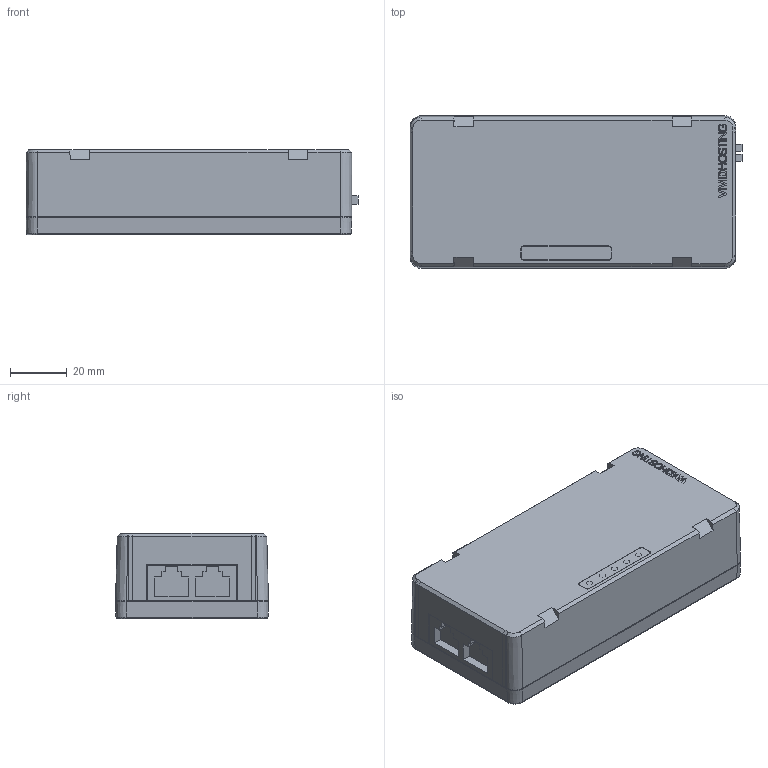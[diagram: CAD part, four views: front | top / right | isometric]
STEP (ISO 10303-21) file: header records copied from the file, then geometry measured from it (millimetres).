
FILE_DESCRIPTION (( 'STEP AP214' ), '1' );
FILE_NAME ('VH-109 Radio.step', '2025-12-23T15:58:14', ( '' ), ( '' ), 'SwSTEP 2.0', 'SolidWorks 2026', '' );
FILE_SCHEMA (( 'AUTOMOTIVE_DESIGN' ));
Length unit declared in the file: millimetre
Products named in the file (1): VH-109 Radio
Bounding box: 117.2 x 53.99 x 30.1 mm (x, y, z)
Volume: 49769.6 mm3; surface area: 51099.2 mm2
Topology: 11 solids, 11 shells, 1073 faces, 2963 edges, 1925 vertices
Faces by surface type: plane 644, cylinder 151, bspline 104, cone 94, torus 64, sphere 16
Entity records: 44241 total; most frequent: CARTESIAN_POINT 17994, ORIENTED_EDGE 5862, DIRECTION 4738, EDGE_CURVE 2931, VERTEX_POINT 1925, VECTOR 1836, LINE 1836, AXIS2_PLACEMENT_3D 1451
